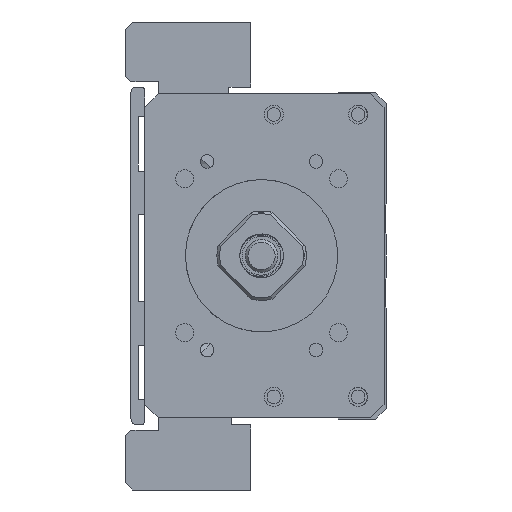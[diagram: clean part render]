
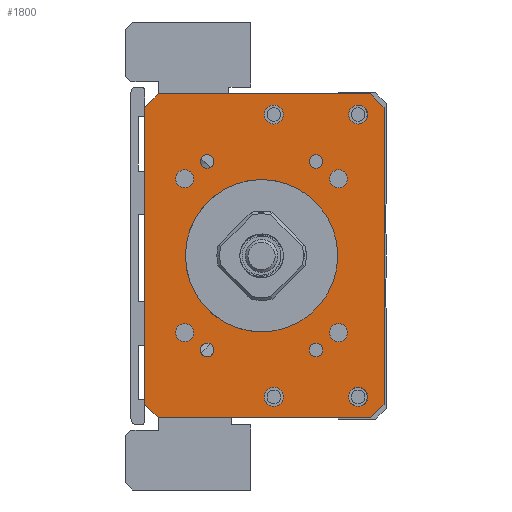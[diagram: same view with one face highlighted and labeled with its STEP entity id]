
A CAD part, left-side view. The second image highlights one B-rep face of the part: STEP entity #1800.
In plain terms, the highlighted planar face has unit normal (-1, 0, 0).
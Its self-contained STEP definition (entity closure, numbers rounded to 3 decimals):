
#637=FACE_BOUND('',#3504,.T.);
#638=FACE_BOUND('',#3505,.T.);
#639=FACE_BOUND('',#3506,.T.);
#640=FACE_BOUND('',#3507,.T.);
#641=FACE_BOUND('',#3508,.T.);
#642=FACE_BOUND('',#3509,.T.);
#643=FACE_BOUND('',#3510,.T.);
#644=FACE_BOUND('',#3511,.T.);
#645=FACE_BOUND('',#3512,.T.);
#646=FACE_BOUND('',#3513,.T.);
#647=FACE_BOUND('',#3514,.T.);
#648=FACE_BOUND('',#3515,.T.);
#649=FACE_BOUND('',#3516,.T.);
#650=FACE_BOUND('',#3517,.T.);
#1215=CIRCLE('',#12253,14.);
#1224=CIRCLE('',#12264,1.65);
#1225=CIRCLE('',#12265,1.65);
#1226=CIRCLE('',#12266,1.65);
#1227=CIRCLE('',#12267,1.65);
#1228=CIRCLE('',#12268,1.25);
#1229=CIRCLE('',#12269,1.75);
#1230=CIRCLE('',#12270,1.25);
#1231=CIRCLE('',#12271,1.75);
#1232=CIRCLE('',#12272,1.25);
#1233=CIRCLE('',#12273,1.75);
#1234=CIRCLE('',#12274,1.75);
#1235=CIRCLE('',#12275,1.25);
#1800=ADVANCED_FACE('',(#637,#638,#639,#640,#641,#642,#643,#644,#645,#646,
#647,#648,#649,#650),#2390,.F.);
#2390=PLANE('',#12276);
#3504=EDGE_LOOP('',(#5636));
#3505=EDGE_LOOP('',(#5637));
#3506=EDGE_LOOP('',(#5638));
#3507=EDGE_LOOP('',(#5639));
#3508=EDGE_LOOP('',(#5640));
#3509=EDGE_LOOP('',(#5641));
#3510=EDGE_LOOP('',(#5642));
#3511=EDGE_LOOP('',(#5643));
#3512=EDGE_LOOP('',(#5644));
#3513=EDGE_LOOP('',(#5645,#5646,#5647,#5648,#5649,#5650,#5651,#5652));
#3514=EDGE_LOOP('',(#5653));
#3515=EDGE_LOOP('',(#5654));
#3516=EDGE_LOOP('',(#5655));
#3517=EDGE_LOOP('',(#5656));
#5636=ORIENTED_EDGE('',*,*,#9056,.F.);
#5637=ORIENTED_EDGE('',*,*,#9057,.F.);
#5638=ORIENTED_EDGE('',*,*,#9058,.F.);
#5639=ORIENTED_EDGE('',*,*,#9059,.F.);
#5640=ORIENTED_EDGE('',*,*,#9060,.F.);
#5641=ORIENTED_EDGE('',*,*,#9061,.T.);
#5642=ORIENTED_EDGE('',*,*,#9062,.F.);
#5643=ORIENTED_EDGE('',*,*,#9063,.F.);
#5644=ORIENTED_EDGE('',*,*,#9064,.F.);
#5645=ORIENTED_EDGE('',*,*,#9053,.T.);
#5646=ORIENTED_EDGE('',*,*,#9065,.T.);
#5647=ORIENTED_EDGE('',*,*,#9066,.F.);
#5648=ORIENTED_EDGE('',*,*,#9067,.T.);
#5649=ORIENTED_EDGE('',*,*,#9068,.F.);
#5650=ORIENTED_EDGE('',*,*,#9069,.T.);
#5651=ORIENTED_EDGE('',*,*,#9070,.T.);
#5652=ORIENTED_EDGE('',*,*,#9071,.T.);
#5653=ORIENTED_EDGE('',*,*,#9072,.F.);
#5654=ORIENTED_EDGE('',*,*,#9073,.F.);
#5655=ORIENTED_EDGE('',*,*,#9074,.F.);
#5656=ORIENTED_EDGE('',*,*,#9033,.F.);
#7709=VERTEX_POINT('',#18173);
#7729=VERTEX_POINT('',#18233);
#7730=VERTEX_POINT('',#18235);
#7732=VERTEX_POINT('',#18241);
#7733=VERTEX_POINT('',#18243);
#7734=VERTEX_POINT('',#18245);
#7735=VERTEX_POINT('',#18247);
#7736=VERTEX_POINT('',#18249);
#7737=VERTEX_POINT('',#18251);
#7738=VERTEX_POINT('',#18253);
#7739=VERTEX_POINT('',#18255);
#7740=VERTEX_POINT('',#18257);
#7741=VERTEX_POINT('',#18259);
#7742=VERTEX_POINT('',#18261);
#7743=VERTEX_POINT('',#18263);
#7744=VERTEX_POINT('',#18265);
#7745=VERTEX_POINT('',#18267);
#7746=VERTEX_POINT('',#18269);
#7747=VERTEX_POINT('',#18272);
#7748=VERTEX_POINT('',#18274);
#7749=VERTEX_POINT('',#18276);
#9033=EDGE_CURVE('',#7709,#7709,#1215,.T.);
#9053=EDGE_CURVE('',#7730,#7729,#10378,.T.);
#9056=EDGE_CURVE('',#7732,#7732,#1224,.T.);
#9057=EDGE_CURVE('',#7733,#7733,#1225,.T.);
#9058=EDGE_CURVE('',#7734,#7734,#1226,.T.);
#9059=EDGE_CURVE('',#7735,#7735,#1227,.T.);
#9060=EDGE_CURVE('',#7736,#7736,#1228,.T.);
#9061=EDGE_CURVE('',#7737,#7737,#1229,.T.);
#9062=EDGE_CURVE('',#7738,#7738,#1230,.T.);
#9063=EDGE_CURVE('',#7739,#7739,#1231,.T.);
#9064=EDGE_CURVE('',#7740,#7740,#1232,.T.);
#9065=EDGE_CURVE('',#7729,#7741,#10380,.T.);
#9066=EDGE_CURVE('',#7742,#7741,#10381,.T.);
#9067=EDGE_CURVE('',#7742,#7743,#10382,.T.);
#9068=EDGE_CURVE('',#7744,#7743,#10383,.T.);
#9069=EDGE_CURVE('',#7744,#7745,#10384,.T.);
#9070=EDGE_CURVE('',#7745,#7746,#10385,.T.);
#9071=EDGE_CURVE('',#7746,#7730,#10386,.T.);
#9072=EDGE_CURVE('',#7747,#7747,#1233,.T.);
#9073=EDGE_CURVE('',#7748,#7748,#1234,.T.);
#9074=EDGE_CURVE('',#7749,#7749,#1235,.T.);
#10378=LINE('',#18234,#11339);
#10380=LINE('',#18258,#11341);
#10381=LINE('',#18260,#11342);
#10382=LINE('',#18262,#11343);
#10383=LINE('',#18264,#11344);
#10384=LINE('',#18266,#11345);
#10385=LINE('',#18268,#11346);
#10386=LINE('',#18270,#11347);
#11339=VECTOR('',#14477,1.);
#11341=VECTOR('',#14501,1.);
#11342=VECTOR('',#14502,1.);
#11343=VECTOR('',#14503,1.);
#11344=VECTOR('',#14504,1.);
#11345=VECTOR('',#14505,1.);
#11346=VECTOR('',#14506,1.);
#11347=VECTOR('',#14507,1.);
#12253=AXIS2_PLACEMENT_3D('',#18172,#14451,#14452);
#12264=AXIS2_PLACEMENT_3D('',#18240,#14483,#14484);
#12265=AXIS2_PLACEMENT_3D('',#18242,#14485,#14486);
#12266=AXIS2_PLACEMENT_3D('',#18244,#14487,#14488);
#12267=AXIS2_PLACEMENT_3D('',#18246,#14489,#14490);
#12268=AXIS2_PLACEMENT_3D('',#18248,#14491,#14492);
#12269=AXIS2_PLACEMENT_3D('',#18250,#14493,#14494);
#12270=AXIS2_PLACEMENT_3D('',#18252,#14495,#14496);
#12271=AXIS2_PLACEMENT_3D('',#18254,#14497,#14498);
#12272=AXIS2_PLACEMENT_3D('',#18256,#14499,#14500);
#12273=AXIS2_PLACEMENT_3D('',#18271,#14508,#14509);
#12274=AXIS2_PLACEMENT_3D('',#18273,#14510,#14511);
#12275=AXIS2_PLACEMENT_3D('',#18275,#14512,#14513);
#12276=AXIS2_PLACEMENT_3D('',#18277,#14514,#14515);
#14451=DIRECTION('',(-1.,0.,0.));
#14452=DIRECTION('',(0.,1.,0.));
#14477=DIRECTION('',(0.,0.,-1.));
#14483=DIRECTION('',(-1.,0.,0.));
#14484=DIRECTION('',(0.,0.,1.));
#14485=DIRECTION('',(-1.,0.,0.));
#14486=DIRECTION('',(0.,0.,1.));
#14487=DIRECTION('',(-1.,0.,0.));
#14488=DIRECTION('',(0.,0.,1.));
#14489=DIRECTION('',(-1.,0.,0.));
#14490=DIRECTION('',(0.,0.,1.));
#14491=DIRECTION('',(-1.,0.,0.));
#14492=DIRECTION('',(0.,1.,0.));
#14493=DIRECTION('',(1.,0.,0.));
#14494=DIRECTION('',(0.,0.,1.));
#14495=DIRECTION('',(-1.,0.,0.));
#14496=DIRECTION('',(0.,1.,0.));
#14497=DIRECTION('',(-1.,0.,0.));
#14498=DIRECTION('',(0.,0.,1.));
#14499=DIRECTION('',(-1.,0.,0.));
#14500=DIRECTION('',(0.,1.,0.));
#14501=DIRECTION('',(0.,-0.707,-0.707));
#14502=DIRECTION('',(0.,1.,0.));
#14503=DIRECTION('',(0.,-0.707,0.707));
#14504=DIRECTION('',(0.,0.,-1.));
#14505=DIRECTION('',(0.,0.707,0.707));
#14506=DIRECTION('',(0.,1.,0.));
#14507=DIRECTION('',(0.,0.707,-0.707));
#14508=DIRECTION('',(-1.,0.,0.));
#14509=DIRECTION('',(0.,0.,1.));
#14510=DIRECTION('',(-1.,0.,0.));
#14511=DIRECTION('',(0.,0.,1.));
#14512=DIRECTION('',(-1.,0.,0.));
#14513=DIRECTION('',(0.,1.,0.));
#14514=DIRECTION('',(1.,0.,0.));
#14515=DIRECTION('',(0.,1.,0.));
#18172=CARTESIAN_POINT('',(-211.,0.,-400.));
#18173=CARTESIAN_POINT('',(-211.,14.,-400.));
#18233=CARTESIAN_POINT('',(-211.,21.499,-427.25));
#18234=CARTESIAN_POINT('',(-211.,21.499,-370.25));
#18235=CARTESIAN_POINT('',(-211.,21.499,-372.75));
#18240=CARTESIAN_POINT('',(-211.,14.142,-385.858));
#18241=CARTESIAN_POINT('',(-211.,14.142,-384.208));
#18242=CARTESIAN_POINT('',(-211.,-14.142,-385.858));
#18243=CARTESIAN_POINT('',(-211.,-14.142,-384.208));
#18244=CARTESIAN_POINT('',(-211.,14.142,-414.142));
#18245=CARTESIAN_POINT('',(-211.,14.142,-412.492));
#18246=CARTESIAN_POINT('',(-211.,-14.142,-414.142));
#18247=CARTESIAN_POINT('',(-211.,-14.142,-412.492));
#18248=CARTESIAN_POINT('',(-211.,-10.,-417.321));
#18249=CARTESIAN_POINT('',(-211.,-8.75,-417.321));
#18250=CARTESIAN_POINT('',(-211.,-2.25,-425.936));
#18251=CARTESIAN_POINT('',(-211.,-2.25,-424.186));
#18252=CARTESIAN_POINT('',(-211.,10.,-382.679));
#18253=CARTESIAN_POINT('',(-211.,11.25,-382.679));
#18254=CARTESIAN_POINT('',(-211.,-2.25,-374.064));
#18255=CARTESIAN_POINT('',(-211.,-2.25,-372.314));
#18256=CARTESIAN_POINT('',(-211.,10.,-417.321));
#18257=CARTESIAN_POINT('',(-211.,11.25,-417.321));
#18258=CARTESIAN_POINT('',(-211.,18.999,-429.75));
#18259=CARTESIAN_POINT('',(-211.,18.999,-429.75));
#18260=CARTESIAN_POINT('',(-211.,-22.501,-429.75));
#18261=CARTESIAN_POINT('',(-211.,-20.001,-429.75));
#18262=CARTESIAN_POINT('',(-211.,-22.501,-427.25));
#18263=CARTESIAN_POINT('',(-211.,-22.501,-427.25));
#18264=CARTESIAN_POINT('',(-211.,-22.501,-370.25));
#18265=CARTESIAN_POINT('',(-211.,-22.501,-372.75));
#18266=CARTESIAN_POINT('',(-211.,-22.501,-372.75));
#18267=CARTESIAN_POINT('',(-211.,-20.001,-370.25));
#18268=CARTESIAN_POINT('',(-211.,-22.501,-370.25));
#18269=CARTESIAN_POINT('',(-211.,18.999,-370.25));
#18270=CARTESIAN_POINT('',(-211.,18.999,-370.25));
#18271=CARTESIAN_POINT('',(-211.,-17.75,-374.064));
#18272=CARTESIAN_POINT('',(-211.,-17.75,-372.314));
#18273=CARTESIAN_POINT('',(-211.,-17.75,-425.936));
#18274=CARTESIAN_POINT('',(-211.,-17.75,-424.186));
#18275=CARTESIAN_POINT('',(-211.,-10.,-382.679));
#18276=CARTESIAN_POINT('',(-211.,-8.75,-382.679));
#18277=CARTESIAN_POINT('',(-211.,-22.501,-370.25));
